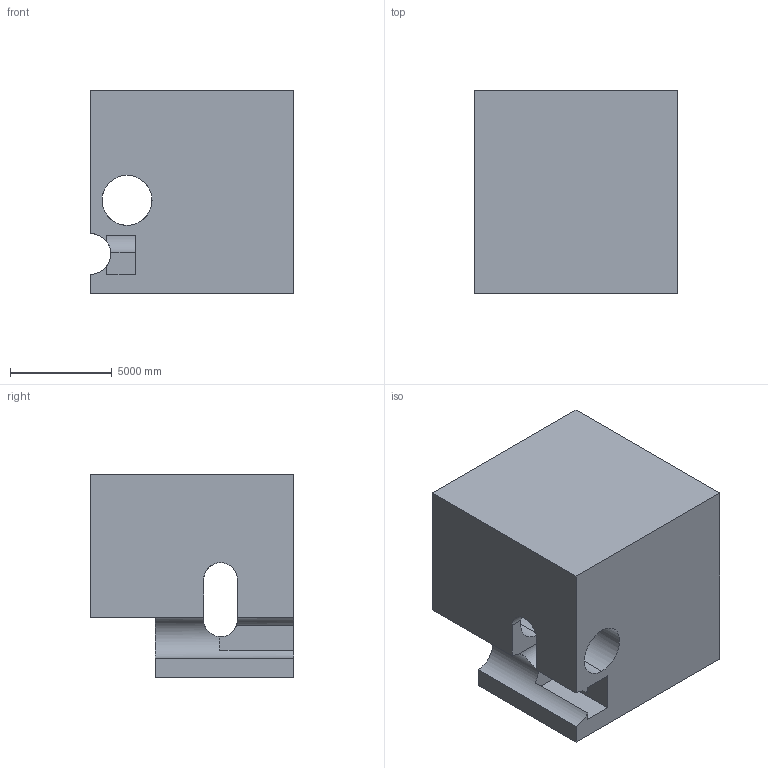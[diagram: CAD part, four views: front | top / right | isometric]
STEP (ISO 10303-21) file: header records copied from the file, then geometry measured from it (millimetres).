
FILE_DESCRIPTION (( 'STEP AP203' ), '1' );
FILE_NAME ('579.STEP', '2022-07-29T11:55:09', ( 'user' ), ( '' ), 'SwSTEP 2.0', 'SolidWorks 2021', '' );
FILE_SCHEMA (( 'CONFIG_CONTROL_DESIGN' ));
Length unit declared in the file: centimetre
Products named in the file (1): 579
Bounding box: 10000 x 10000 x 10000 mm (x, y, z)
Volume: 769043407837.3 mm3; surface area: 750047584.6 mm2
Topology: 1 solids, 1 shells, 34 faces, 99 edges, 66 vertices
Faces by surface type: plane 20, cylinder 14
Entity records: 1610 total; most frequent: CARTESIAN_POINT 600, ORIENTED_EDGE 198, DIRECTION 193, EDGE_CURVE 99, VERTEX_POINT 66, AXIS2_PLACEMENT_3D 65, LINE 63, VECTOR 63
